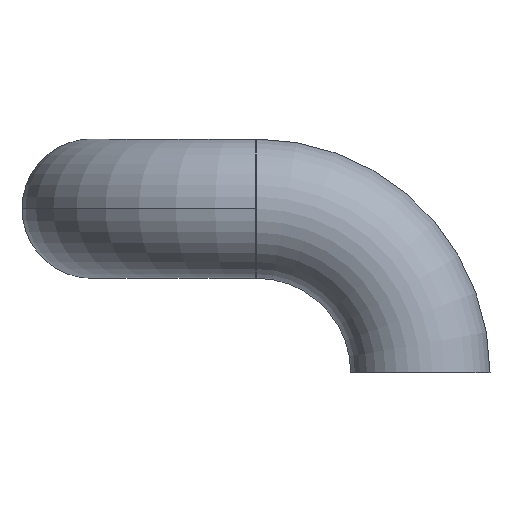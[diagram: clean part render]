
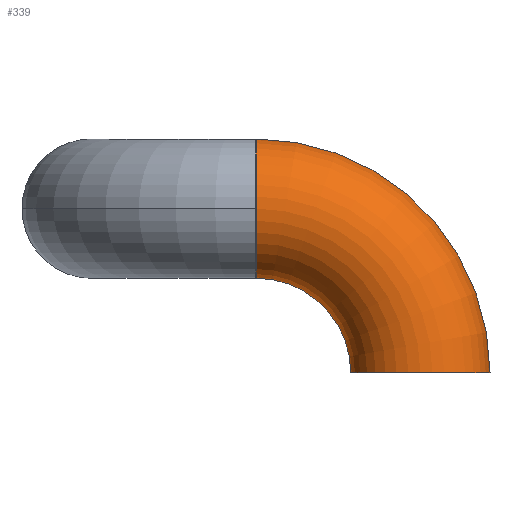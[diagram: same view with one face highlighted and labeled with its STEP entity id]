
A CAD part, left-side view. The second image highlights one B-rep face of the part: STEP entity #339.
In plain terms, the highlighted toroidal (fillet/blend) face has major radius 57 mm and minor radius 24.15 mm.
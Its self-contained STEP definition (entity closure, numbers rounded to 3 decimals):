
#7 = AXIS2_PLACEMENT_3D ( 'NONE', #447, #491, #183 ) ;
#8 = DIRECTION ( 'NONE',  ( 1., 0., 0. ) ) ;
#15 = ORIENTED_EDGE ( 'NONE', *, *, #314, .T. ) ;
#24 = CARTESIAN_POINT ( 'NONE',  ( 6102., 3661., 6218.85 ) ) ;
#35 = AXIS2_PLACEMENT_3D ( 'NONE', #170, #8, #359 ) ;
#56 = CARTESIAN_POINT ( 'NONE',  ( 6102., 3685.15, 6218.85 ) ) ;
#67 = CARTESIAN_POINT ( 'NONE',  ( 6102., 3718., 6300. ) ) ;
#69 = DIRECTION ( 'NONE',  ( 0., 0., -1. ) ) ;
#71 = EDGE_LOOP ( 'NONE', ( #108, #352, #559, #15, #154 ) ) ;
#81 = CIRCLE ( 'NONE', #222, 24.15 ) ;
#108 = ORIENTED_EDGE ( 'NONE', *, *, #121, .F. ) ;
#116 = DIRECTION ( 'NONE',  ( 0., 1., 0. ) ) ;
#118 = FACE_OUTER_BOUND ( 'NONE', #71, .T. ) ;
#121 = EDGE_CURVE ( 'NONE', #402, #368, #272, .T. ) ;
#138 = CIRCLE ( 'NONE', #494, 24.15 ) ;
#139 = CARTESIAN_POINT ( 'NONE',  ( 6102., 3718., 6251.7 ) ) ;
#150 = CIRCLE ( 'NONE', #7, 24.15 ) ;
#154 = ORIENTED_EDGE ( 'NONE', *, *, #556, .F. ) ;
#170 = CARTESIAN_POINT ( 'NONE',  ( 6102., 3718., 6218.85 ) ) ;
#183 = DIRECTION ( 'NONE',  ( 1., 0., 0. ) ) ;
#184 = DIRECTION ( 'NONE',  ( 1., 0., 0. ) ) ;
#197 = AXIS2_PLACEMENT_3D ( 'NONE', #421, #385, #69 ) ;
#211 = VERTEX_POINT ( 'NONE', #139 ) ;
#222 = AXIS2_PLACEMENT_3D ( 'NONE', #500, #459, #184 ) ;
#228 = VERTEX_POINT ( 'NONE', #56 ) ;
#231 = EDGE_CURVE ( 'NONE', #402, #325, #81, .T. ) ;
#272 = CIRCLE ( 'NONE', #35, 81.15 ) ;
#300 = CARTESIAN_POINT ( 'NONE',  ( 6102., 3636.85, 6218.85 ) ) ;
#314 = EDGE_CURVE ( 'NONE', #211, #228, #545, .T. ) ;
#323 = DIRECTION ( 'NONE',  ( 0., 0., -1. ) ) ;
#325 = VERTEX_POINT ( 'NONE', #336 ) ;
#336 = CARTESIAN_POINT ( 'NONE',  ( 6077.85, 3718., 6275.85 ) ) ;
#339 = ADVANCED_FACE ( 'NONE', ( #118 ), #420, .T. ) ;
#352 = ORIENTED_EDGE ( 'NONE', *, *, #231, .T. ) ;
#359 = DIRECTION ( 'NONE',  ( 0., 1., 0. ) ) ;
#368 = VERTEX_POINT ( 'NONE', #300 ) ;
#369 = DIRECTION ( 'NONE',  ( 1., 0., 0. ) ) ;
#380 = DIRECTION ( 'NONE',  ( 1., 0., 0. ) ) ;
#385 = DIRECTION ( 'NONE',  ( 1., 0., 0. ) ) ;
#402 = VERTEX_POINT ( 'NONE', #67 ) ;
#420 = TOROIDAL_SURFACE ( 'NONE', #197, 57., 24.15 ) ;
#421 = CARTESIAN_POINT ( 'NONE',  ( 6102., 3718., 6218.85 ) ) ;
#444 = AXIS2_PLACEMENT_3D ( 'NONE', #462, #380, #116 ) ;
#447 = CARTESIAN_POINT ( 'NONE',  ( 6102., 3718., 6275.85 ) ) ;
#459 = DIRECTION ( 'NONE',  ( 0., -1., 0. ) ) ;
#462 = CARTESIAN_POINT ( 'NONE',  ( 6102., 3718., 6218.85 ) ) ;
#491 = DIRECTION ( 'NONE',  ( 0., -1., 0. ) ) ;
#494 = AXIS2_PLACEMENT_3D ( 'NONE', #24, #323, #369 ) ;
#500 = CARTESIAN_POINT ( 'NONE',  ( 6102., 3718., 6275.85 ) ) ;
#518 = EDGE_CURVE ( 'NONE', #325, #211, #150, .T. ) ;
#545 = CIRCLE ( 'NONE', #444, 32.85 ) ;
#556 = EDGE_CURVE ( 'NONE', #368, #228, #138, .T. ) ;
#559 = ORIENTED_EDGE ( 'NONE', *, *, #518, .T. ) ;
